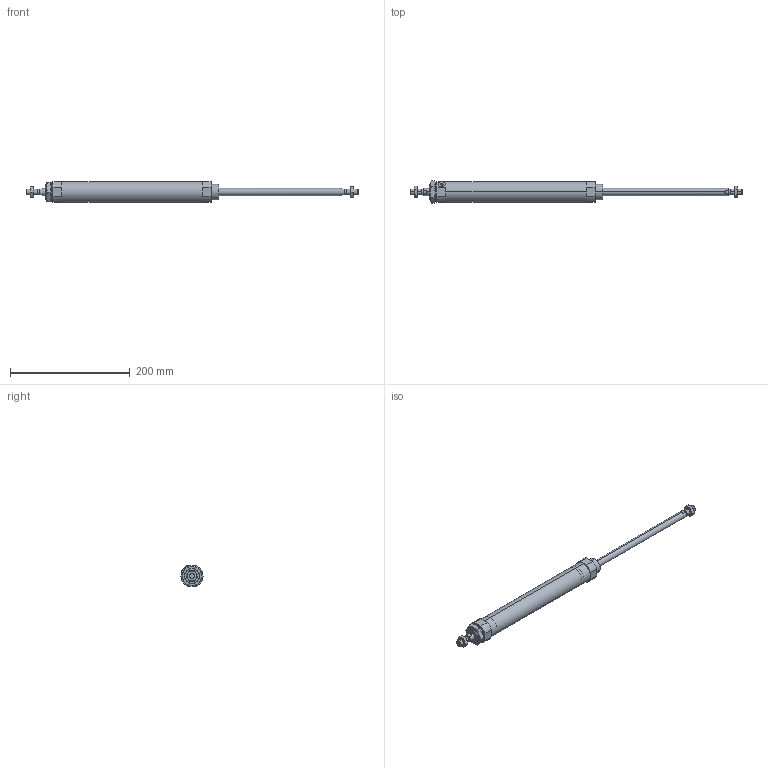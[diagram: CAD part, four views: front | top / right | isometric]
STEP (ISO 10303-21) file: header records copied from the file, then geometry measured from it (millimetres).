
FILE_DESCRIPTION (( 'STEP AP203' ), '1' );
FILE_NAME ('CSM2B32-200-P.STEP', '2020-07-20T16:47:41', ( '' ), ( '' ), 'SwSTEP 2.0', 'SolidWorks 2019', '' );
FILE_SCHEMA (( 'CONFIG_CONTROL_DESIGN' ));
Length unit declared in the file: millimetre
Products named in the file (1): CSM2B32-200-P
Bounding box: 554 x 36.95 x 34.5 mm (x, y, z)
Volume: 149182.4 mm3; surface area: 84624.2 mm2
Topology: 5 solids, 5 shells, 149 faces, 346 edges, 217 vertices
Faces by surface type: plane 57, cylinder 48, cone 44
Entity records: 5397 total; most frequent: CARTESIAN_POINT 1949, DIRECTION 714, ORIENTED_EDGE 680, EDGE_CURVE 340, AXIS2_PLACEMENT_3D 282, VERTEX_POINT 217, EDGE_LOOP 173, LINE 150
